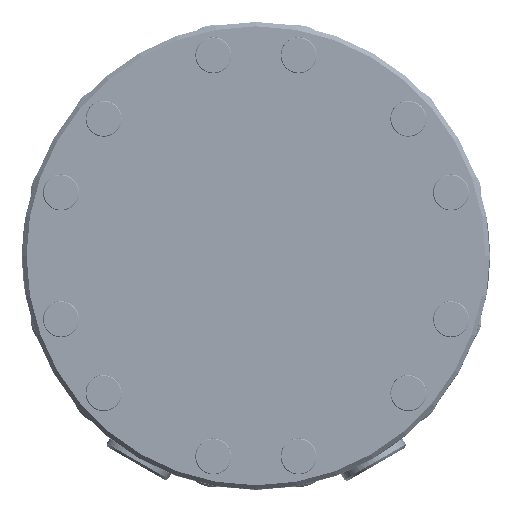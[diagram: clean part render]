
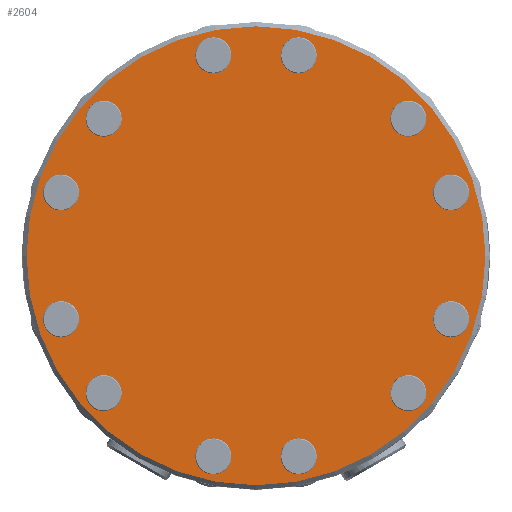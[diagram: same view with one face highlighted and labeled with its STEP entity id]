
A CAD part, top view. The second image highlights one B-rep face of the part: STEP entity #2604.
In plain terms, the highlighted planar face has unit normal (0, 0, 1).
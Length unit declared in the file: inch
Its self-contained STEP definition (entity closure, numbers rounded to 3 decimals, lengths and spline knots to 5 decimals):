
#438=PLANE('',#2893);
#614=FACE_BOUND('',#1016,.T.);
#615=FACE_BOUND('',#1017,.T.);
#616=FACE_BOUND('',#1018,.T.);
#617=FACE_BOUND('',#1019,.T.);
#618=FACE_BOUND('',#1020,.T.);
#619=FACE_BOUND('',#1021,.T.);
#620=FACE_BOUND('',#1022,.T.);
#621=FACE_BOUND('',#1023,.T.);
#622=FACE_BOUND('',#1024,.T.);
#623=FACE_BOUND('',#1025,.T.);
#624=FACE_BOUND('',#1026,.T.);
#625=FACE_BOUND('',#1027,.T.);
#725=FACE_OUTER_BOUND('',#1015,.T.);
#1015=EDGE_LOOP('',(#2113));
#1016=EDGE_LOOP('',(#2114));
#1017=EDGE_LOOP('',(#2115));
#1018=EDGE_LOOP('',(#2116));
#1019=EDGE_LOOP('',(#2117));
#1020=EDGE_LOOP('',(#2118));
#1021=EDGE_LOOP('',(#2119));
#1022=EDGE_LOOP('',(#2120));
#1023=EDGE_LOOP('',(#2121));
#1024=EDGE_LOOP('',(#2122));
#1025=EDGE_LOOP('',(#2123));
#1026=EDGE_LOOP('',(#2124));
#1027=EDGE_LOOP('',(#2125));
#1194=CIRCLE('',#2821,0.251);
#1196=CIRCLE('',#2824,0.251);
#1198=CIRCLE('',#2827,0.251);
#1200=CIRCLE('',#2830,0.251);
#1202=CIRCLE('',#2833,0.251);
#1204=CIRCLE('',#2836,0.251);
#1206=CIRCLE('',#2839,0.251);
#1208=CIRCLE('',#2842,0.251);
#1210=CIRCLE('',#2845,0.251);
#1212=CIRCLE('',#2848,0.251);
#1214=CIRCLE('',#2851,0.251);
#1216=CIRCLE('',#2854,0.251);
#1229=CIRCLE('',#2889,3.19);
#1368=VERTEX_POINT('',#4082);
#1370=VERTEX_POINT('',#4087);
#1372=VERTEX_POINT('',#4092);
#1374=VERTEX_POINT('',#4097);
#1376=VERTEX_POINT('',#4102);
#1378=VERTEX_POINT('',#4107);
#1380=VERTEX_POINT('',#4112);
#1382=VERTEX_POINT('',#4117);
#1384=VERTEX_POINT('',#4122);
#1386=VERTEX_POINT('',#4127);
#1388=VERTEX_POINT('',#4132);
#1390=VERTEX_POINT('',#4137);
#1413=VERTEX_POINT('',#4285);
#1620=EDGE_CURVE('',#1368,#1368,#1194,.T.);
#1622=EDGE_CURVE('',#1370,#1370,#1196,.T.);
#1624=EDGE_CURVE('',#1372,#1372,#1198,.T.);
#1626=EDGE_CURVE('',#1374,#1374,#1200,.T.);
#1628=EDGE_CURVE('',#1376,#1376,#1202,.T.);
#1630=EDGE_CURVE('',#1378,#1378,#1204,.T.);
#1632=EDGE_CURVE('',#1380,#1380,#1206,.T.);
#1634=EDGE_CURVE('',#1382,#1382,#1208,.T.);
#1636=EDGE_CURVE('',#1384,#1384,#1210,.T.);
#1638=EDGE_CURVE('',#1386,#1386,#1212,.T.);
#1640=EDGE_CURVE('',#1388,#1388,#1214,.T.);
#1642=EDGE_CURVE('',#1390,#1390,#1216,.T.);
#1670=EDGE_CURVE('',#1413,#1413,#1229,.T.);
#2113=ORIENTED_EDGE('',*,*,#1670,.F.);
#2114=ORIENTED_EDGE('',*,*,#1620,.T.);
#2115=ORIENTED_EDGE('',*,*,#1622,.T.);
#2116=ORIENTED_EDGE('',*,*,#1624,.T.);
#2117=ORIENTED_EDGE('',*,*,#1626,.T.);
#2118=ORIENTED_EDGE('',*,*,#1628,.T.);
#2119=ORIENTED_EDGE('',*,*,#1630,.T.);
#2120=ORIENTED_EDGE('',*,*,#1632,.T.);
#2121=ORIENTED_EDGE('',*,*,#1634,.T.);
#2122=ORIENTED_EDGE('',*,*,#1636,.T.);
#2123=ORIENTED_EDGE('',*,*,#1638,.T.);
#2124=ORIENTED_EDGE('',*,*,#1640,.T.);
#2125=ORIENTED_EDGE('',*,*,#1642,.T.);
#2604=ADVANCED_FACE('',(#725,#614,#615,#616,#617,#618,#619,#620,#621,#622,
#623,#624,#625),#438,.F.);
#2821=AXIS2_PLACEMENT_3D('',#4083,#3328,#3329);
#2824=AXIS2_PLACEMENT_3D('',#4088,#3334,#3335);
#2827=AXIS2_PLACEMENT_3D('',#4093,#3340,#3341);
#2830=AXIS2_PLACEMENT_3D('',#4098,#3346,#3347);
#2833=AXIS2_PLACEMENT_3D('',#4103,#3352,#3353);
#2836=AXIS2_PLACEMENT_3D('',#4108,#3358,#3359);
#2839=AXIS2_PLACEMENT_3D('',#4113,#3364,#3365);
#2842=AXIS2_PLACEMENT_3D('',#4118,#3370,#3371);
#2845=AXIS2_PLACEMENT_3D('',#4123,#3376,#3377);
#2848=AXIS2_PLACEMENT_3D('',#4128,#3382,#3383);
#2851=AXIS2_PLACEMENT_3D('',#4133,#3388,#3389);
#2854=AXIS2_PLACEMENT_3D('',#4138,#3394,#3395);
#2889=AXIS2_PLACEMENT_3D('',#4286,#3464,#3465);
#2893=AXIS2_PLACEMENT_3D('',#4370,#3472,#3473);
#3328=DIRECTION('center_axis',(0.,0.,-1.));
#3329=DIRECTION('ref_axis',(-1.,0.,0.));
#3334=DIRECTION('center_axis',(0.,0.,-1.));
#3335=DIRECTION('ref_axis',(-1.,0.,0.));
#3340=DIRECTION('center_axis',(0.,0.,-1.));
#3341=DIRECTION('ref_axis',(-1.,0.,0.));
#3346=DIRECTION('center_axis',(0.,0.,-1.));
#3347=DIRECTION('ref_axis',(-1.,0.,0.));
#3352=DIRECTION('center_axis',(0.,0.,-1.));
#3353=DIRECTION('ref_axis',(-1.,0.,0.));
#3358=DIRECTION('center_axis',(0.,0.,-1.));
#3359=DIRECTION('ref_axis',(-1.,0.,0.));
#3364=DIRECTION('center_axis',(0.,0.,-1.));
#3365=DIRECTION('ref_axis',(-1.,0.,0.));
#3370=DIRECTION('center_axis',(0.,0.,-1.));
#3371=DIRECTION('ref_axis',(-1.,0.,0.));
#3376=DIRECTION('center_axis',(0.,0.,-1.));
#3377=DIRECTION('ref_axis',(-1.,0.,0.));
#3382=DIRECTION('center_axis',(0.,0.,-1.));
#3383=DIRECTION('ref_axis',(-1.,0.,0.));
#3388=DIRECTION('center_axis',(0.,0.,-1.));
#3389=DIRECTION('ref_axis',(-1.,0.,0.));
#3394=DIRECTION('center_axis',(0.,0.,-1.));
#3395=DIRECTION('ref_axis',(-1.,0.,0.));
#3464=DIRECTION('center_axis',(0.,0.,-1.));
#3465=DIRECTION('ref_axis',(-1.,0.,0.));
#3472=DIRECTION('center_axis',(0.,0.,-1.));
#3473=DIRECTION('ref_axis',(-1.,0.,0.));
#4082=CARTESIAN_POINT('',(-1.86696,-1.90702,0.85));
#4083=CARTESIAN_POINT('Origin',(-2.11796,-1.90702,0.85));
#4087=CARTESIAN_POINT('',(-2.45951,-0.8807,0.85));
#4088=CARTESIAN_POINT('Origin',(-2.71051,-0.8807,0.85));
#4092=CARTESIAN_POINT('',(-2.45951,0.8807,0.85));
#4093=CARTESIAN_POINT('Origin',(-2.71051,0.8807,0.85));
#4097=CARTESIAN_POINT('',(-1.86696,1.90702,0.85));
#4098=CARTESIAN_POINT('Origin',(-2.11796,1.90702,0.85));
#4102=CARTESIAN_POINT('',(-0.34155,2.78772,0.85));
#4103=CARTESIAN_POINT('Origin',(-0.59255,2.78772,0.85));
#4107=CARTESIAN_POINT('',(0.84355,2.78772,0.85));
#4108=CARTESIAN_POINT('Origin',(0.59255,2.78772,0.85));
#4112=CARTESIAN_POINT('',(2.36896,1.90702,0.85));
#4113=CARTESIAN_POINT('Origin',(2.11796,1.90702,0.85));
#4117=CARTESIAN_POINT('',(2.96151,0.8807,0.85));
#4118=CARTESIAN_POINT('Origin',(2.71051,0.8807,0.85));
#4122=CARTESIAN_POINT('',(2.96151,-0.8807,0.85));
#4123=CARTESIAN_POINT('Origin',(2.71051,-0.8807,0.85));
#4127=CARTESIAN_POINT('',(2.36896,-1.90702,0.85));
#4128=CARTESIAN_POINT('Origin',(2.11796,-1.90702,0.85));
#4132=CARTESIAN_POINT('',(0.84355,-2.78772,0.85));
#4133=CARTESIAN_POINT('Origin',(0.59255,-2.78772,0.85));
#4137=CARTESIAN_POINT('',(-0.34155,-2.78772,0.85));
#4138=CARTESIAN_POINT('Origin',(-0.59255,-2.78772,0.85));
#4285=CARTESIAN_POINT('',(3.19,0.,0.85));
#4286=CARTESIAN_POINT('Origin',(0.,0.,0.85));
#4370=CARTESIAN_POINT('Origin',(0.,0.,0.85));
